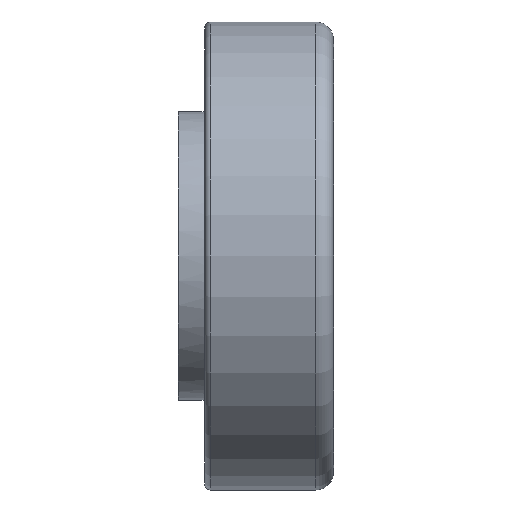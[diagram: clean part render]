
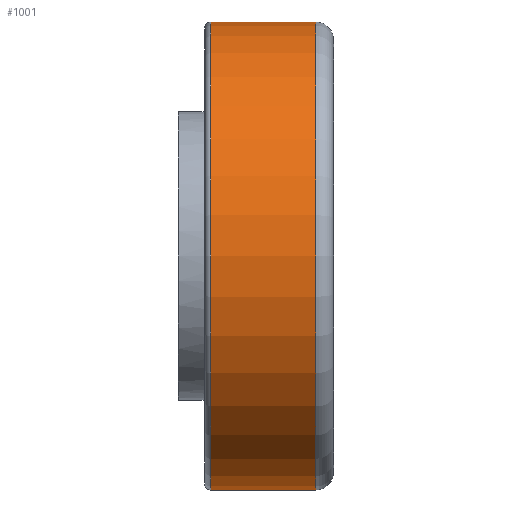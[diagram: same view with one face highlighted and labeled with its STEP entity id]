
A CAD part, front view. The second image highlights one B-rep face of the part: STEP entity #1001.
In plain terms, the highlighted cylindrical face has radius 20 mm (diameter 40 mm), a full revolution.
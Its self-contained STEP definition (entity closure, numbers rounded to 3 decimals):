
#28=CYLINDRICAL_SURFACE('',#1166,20.);
#111=FACE_OUTER_BOUND('',#175,.T.);
#175=EDGE_LOOP('',(#889,#890,#891,#892,#893,#894));
#280=CIRCLE('',#1164,20.);
#281=CIRCLE('',#1165,20.);
#282=CIRCLE('',#1167,20.);
#283=CIRCLE('',#1168,20.);
#326=LINE('',#1934,#366);
#366=VECTOR('',#1491,20.);
#442=VERTEX_POINT('',#1927);
#443=VERTEX_POINT('',#1929);
#444=VERTEX_POINT('',#1933);
#445=VERTEX_POINT('',#1935);
#592=EDGE_CURVE('',#442,#443,#280,.T.);
#593=EDGE_CURVE('',#443,#442,#281,.T.);
#594=EDGE_CURVE('',#443,#444,#326,.T.);
#595=EDGE_CURVE('',#445,#444,#282,.T.);
#596=EDGE_CURVE('',#444,#445,#283,.T.);
#889=ORIENTED_EDGE('',*,*,#593,.F.);
#890=ORIENTED_EDGE('',*,*,#594,.T.);
#891=ORIENTED_EDGE('',*,*,#595,.F.);
#892=ORIENTED_EDGE('',*,*,#596,.F.);
#893=ORIENTED_EDGE('',*,*,#594,.F.);
#894=ORIENTED_EDGE('',*,*,#592,.F.);
#1001=ADVANCED_FACE('',(#111),#28,.T.);
#1164=AXIS2_PLACEMENT_3D('',#1930,#1485,#1486);
#1165=AXIS2_PLACEMENT_3D('',#1931,#1487,#1488);
#1166=AXIS2_PLACEMENT_3D('',#1932,#1489,#1490);
#1167=AXIS2_PLACEMENT_3D('',#1936,#1492,#1493);
#1168=AXIS2_PLACEMENT_3D('',#1937,#1494,#1495);
#1485=DIRECTION('center_axis',(1.,0.,0.));
#1486=DIRECTION('ref_axis',(0.,-1.,0.));
#1487=DIRECTION('center_axis',(1.,0.,0.));
#1488=DIRECTION('ref_axis',(0.,-1.,0.));
#1489=DIRECTION('center_axis',(1.,0.,0.));
#1490=DIRECTION('ref_axis',(0.,1.,0.));
#1491=DIRECTION('',(-1.,0.,0.));
#1492=DIRECTION('center_axis',(-1.,0.,0.));
#1493=DIRECTION('ref_axis',(0.,-1.,0.));
#1494=DIRECTION('center_axis',(-1.,0.,0.));
#1495=DIRECTION('ref_axis',(0.,-1.,0.));
#1927=CARTESIAN_POINT('',(11.75,0.,20.));
#1929=CARTESIAN_POINT('',(11.75,-20.,0.));
#1930=CARTESIAN_POINT('Origin',(11.75,0.,0.));
#1931=CARTESIAN_POINT('Origin',(11.75,0.,0.));
#1932=CARTESIAN_POINT('Origin',(7.75,0.,0.));
#1933=CARTESIAN_POINT('',(2.75,-20.,0.));
#1934=CARTESIAN_POINT('',(7.75,-20.,0.));
#1935=CARTESIAN_POINT('',(2.75,0.,20.));
#1936=CARTESIAN_POINT('Origin',(2.75,0.,0.));
#1937=CARTESIAN_POINT('Origin',(2.75,0.,0.));
